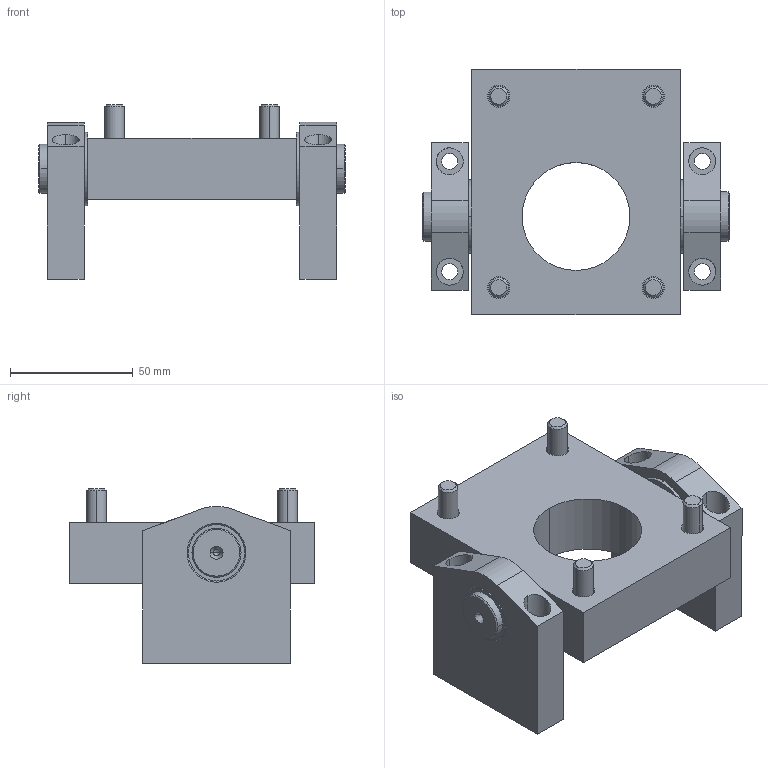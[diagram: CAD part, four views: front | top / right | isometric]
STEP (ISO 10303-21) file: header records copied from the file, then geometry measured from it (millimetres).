
FILE_DESCRIPTION (( 'STEP AP203' ), '1' );
FILE_NAME ('MJ2-KP(Z2)-SFK.STEP', '2024-01-16T09:57:01', ( '' ), ( '' ), 'SwSTEP 2.0', 'SolidWorks 2022', '' );
FILE_SCHEMA (( 'CONFIG_CONTROL_DESIGN' ));
Length unit declared in the file: millimetre
Products named in the file (1): MJ2-KP(Z2)-SFK
Bounding box: 125 x 100 x 71.1 mm (x, y, z)
Volume: 282774.6 mm3; surface area: 76602.5 mm2
Topology: 13 solids, 13 shells, 284 faces, 678 edges, 430 vertices
Faces by surface type: plane 108, cylinder 92, cone 52, torus 32
Entity records: 8199 total; most frequent: CARTESIAN_POINT 1525, DIRECTION 1460, ORIENTED_EDGE 1316, EDGE_CURVE 658, AXIS2_PLACEMENT_3D 589, VERTEX_POINT 430, EDGE_LOOP 340, CIRCLE 304
